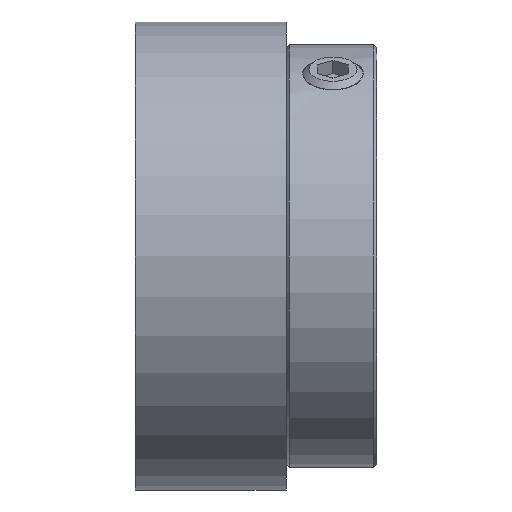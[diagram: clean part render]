
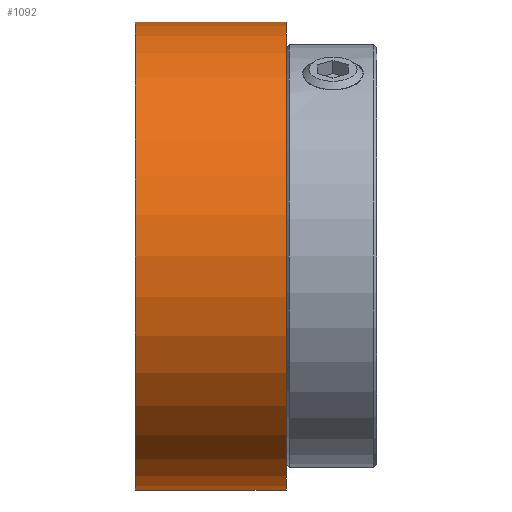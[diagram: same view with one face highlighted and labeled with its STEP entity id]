
A CAD part, front view. The second image highlights one B-rep face of the part: STEP entity #1092.
In plain terms, the highlighted cylindrical face has radius 15.5 mm (diameter 31 mm), a full revolution.
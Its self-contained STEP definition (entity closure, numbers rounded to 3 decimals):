
#23 = FACE_OUTER_BOUND ( 'NONE', #1340, .T. ) ;
#28 = FACE_OUTER_BOUND ( 'NONE', #1302, .T. ) ;
#30 = CYLINDRICAL_SURFACE ( 'NONE', #165, 15.5 ) ;
#165 = AXIS2_PLACEMENT_3D ( 'NONE', #746, #743, #738 ) ;
#174 = AXIS2_PLACEMENT_3D ( 'NONE', #584, #585, #586 ) ;
#179 = AXIS2_PLACEMENT_3D ( 'NONE', #881, #879, #877 ) ;
#237 = EDGE_CURVE ( 'NONE', #1267, #1267, #843, .T. ) ;
#246 = EDGE_CURVE ( 'NONE', #1271, #1271, #861, .T. ) ;
#584 = CARTESIAN_POINT ( 'NONE',  ( -0.5, 0., 0. ) ) ;
#585 = DIRECTION ( 'NONE',  ( 1., 0., 0. ) ) ;
#586 = DIRECTION ( 'NONE',  ( 0., 0., -1. ) ) ;
#738 = DIRECTION ( 'NONE',  ( 0., 0., 1. ) ) ;
#743 = DIRECTION ( 'NONE',  ( -1., 0., 0. ) ) ;
#746 = CARTESIAN_POINT ( 'NONE',  ( 9.5, 0., 0. ) ) ;
#843 = CIRCLE ( 'NONE', #179, 15.5 ) ;
#861 = CIRCLE ( 'NONE', #174, 15.5 ) ;
#877 = DIRECTION ( 'NONE',  ( 0., 0., -1. ) ) ;
#879 = DIRECTION ( 'NONE',  ( 1., 0., 0. ) ) ;
#881 = CARTESIAN_POINT ( 'NONE',  ( 9.5, 0., 0. ) ) ;
#938 = CARTESIAN_POINT ( 'NONE',  ( 9.5, 0., -15.5 ) ) ;
#942 = CARTESIAN_POINT ( 'NONE',  ( -0.5, 0., -15.5 ) ) ;
#1092 = ADVANCED_FACE ( 'NONE', ( #23, #28 ), #30, .T. ) ;
#1267 = VERTEX_POINT ( 'NONE', #938 ) ;
#1271 = VERTEX_POINT ( 'NONE', #942 ) ;
#1302 = EDGE_LOOP ( 'NONE', ( #1409 ) ) ;
#1340 = EDGE_LOOP ( 'NONE', ( #1401 ) ) ;
#1401 = ORIENTED_EDGE ( 'NONE', *, *, #237, .F. ) ;
#1409 = ORIENTED_EDGE ( 'NONE', *, *, #246, .T. ) ;
